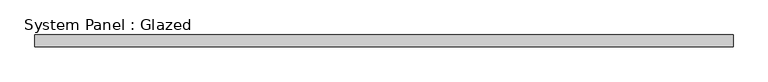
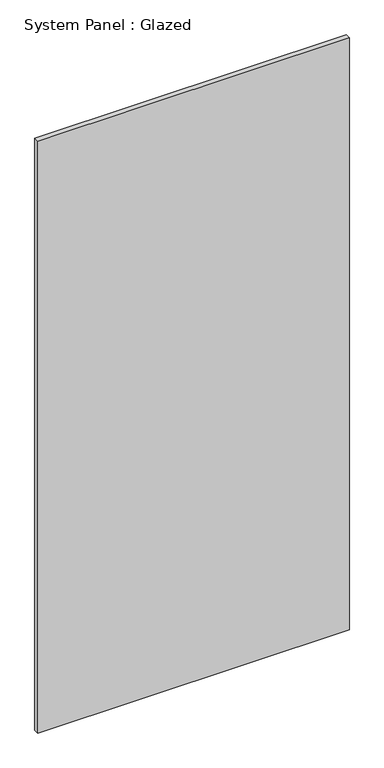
"""IFC4 building model written with IfcOpenShell, lengths in millimetres: plate geometry, System Panel : Glazed."""

from ifc_helpers import new_model, si_unit, origin, origin_with_axes, place, context, project, spatial, polyline, outline, extrude, source, transform, mapped, element, save


def system_panel_glazed_95735f45(model_context):
    return source(origin(), model_context, "Body", "SweptSolid", [
        extrude(outline(polyline([(755.65, -44.45), (-755.65, -44.45), (-755.65, -19.05), (755.65, -19.05), (755.65, -44.45)])), origin_with_axes(), (0.0, 0.0, 1.0), 3035.3),
    ])


if __name__ == "__main__":
    model = new_model("IFC4")
    model_context = context("Model", 3, world=origin())
    ifc_project = project(units=[si_unit("LENGTHUNIT", "METRE", prefix="MILLI")], contexts=[model_context])
    site = spatial("IfcSite", under=ifc_project)
    building = spatial("IfcBuilding", under=site)
    placement = place(None, origin())
    system_panel_glazed_shape = system_panel_glazed_95735f45(model_context)
    element("IfcPlate", 1, ObjectType="System Panel : Glazed", at=placement, inside=building, context=model_context, shape_type="MappedRepresentation", body=[
        mapped(system_panel_glazed_shape, transform((0.0, 0.0, 0.0), x_axis=(1.0, 0.0, 0.0), y_axis=(0.0, 1.0, 0.0), z_axis=(0.0, 0.0, 1.0))),
    ])
    save(model, "model.ifc")
